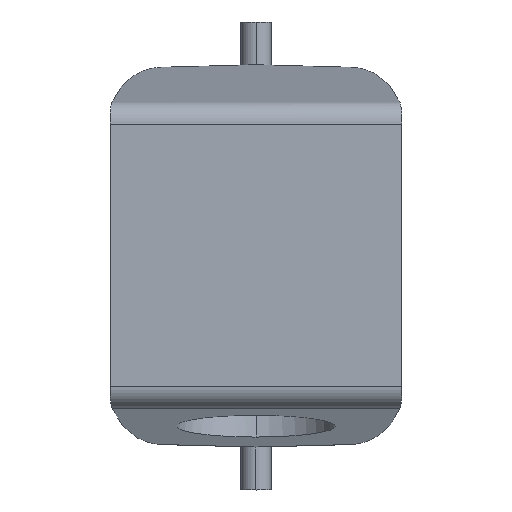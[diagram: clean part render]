
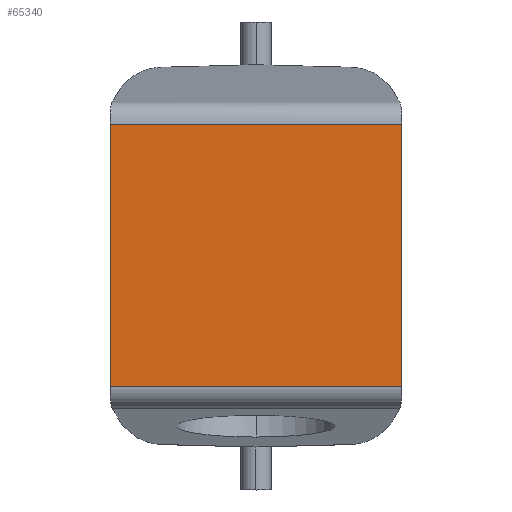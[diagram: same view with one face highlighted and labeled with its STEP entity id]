
A CAD part, top view. The second image highlights one B-rep face of the part: STEP entity #65340.
In plain terms, the highlighted planar face has unit normal (0, 0, 1) as drawn and (0, -1, 0) by its records, which use the part's own axes.
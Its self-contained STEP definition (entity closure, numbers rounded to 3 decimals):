
#6680=CARTESIAN_POINT('',(-6.639,-181.921,
-28.075));
#6690=DIRECTION('',(0.,0.,1.));
#6700=VECTOR('',#6690,1.);
#6710=LINE('',#6680,#6700);
#6720=CARTESIAN_POINT('',(-6.639,-181.921,
-28.075));
#6730=VERTEX_POINT('',#6720);
#6740=CARTESIAN_POINT('',(-6.639,-181.921,
17.725));
#6750=VERTEX_POINT('',#6740);
#6760=EDGE_CURVE('',#6730,#6750,#6710,.T.);
#28680=CARTESIAN_POINT('',(34.553,-181.921,
17.725));
#28690=VERTEX_POINT('',#28680);
#28740=CARTESIAN_POINT('',(-6.639,-181.921,
17.725));
#28750=DIRECTION('',(1.,0.,0.));
#28760=VECTOR('',#28750,1.);
#28770=LINE('',#28740,#28760);
#28780=EDGE_CURVE('',#6750,#28690,#28770,.T.);
#51660=CARTESIAN_POINT('',(34.553,-181.921,
-28.075));
#51670=VERTEX_POINT('',#51660);
#51700=CARTESIAN_POINT('',(34.553,-181.921,
-28.075));
#51710=DIRECTION('',(0.,0.,1.));
#51720=VECTOR('',#51710,1.);
#51730=LINE('',#51700,#51720);
#51740=EDGE_CURVE('',#51670,#28690,#51730,.T.);
#63750=CARTESIAN_POINT('',(34.553,-181.921,
-28.075));
#63760=DIRECTION('',(-1.,0.,0.));
#63770=VECTOR('',#63760,1.);
#63780=LINE('',#63750,#63770);
#63790=EDGE_CURVE('',#51670,#6730,#63780,.T.);
#65230=CARTESIAN_POINT('',(35.586,-181.921,
18.873));
#65240=DIRECTION('',(-0.,-1.,-0.));
#65250=DIRECTION('',(-1.,0.,0.));
#65260=AXIS2_PLACEMENT_3D('',#65230,#65240,#65250);
#65270=PLANE('',#65260);
#65280=ORIENTED_EDGE('',*,*,#63790,.F.);
#65290=ORIENTED_EDGE('',*,*,#6760,.F.);
#65300=ORIENTED_EDGE('',*,*,#28780,.F.);
#65310=ORIENTED_EDGE('',*,*,#51740,.T.);
#65320=EDGE_LOOP('',(#65310,#65300,#65290,#65280));
#65330=FACE_OUTER_BOUND('',#65320,.T.);
#65340=ADVANCED_FACE('',(#65330),#65270,.T.);
